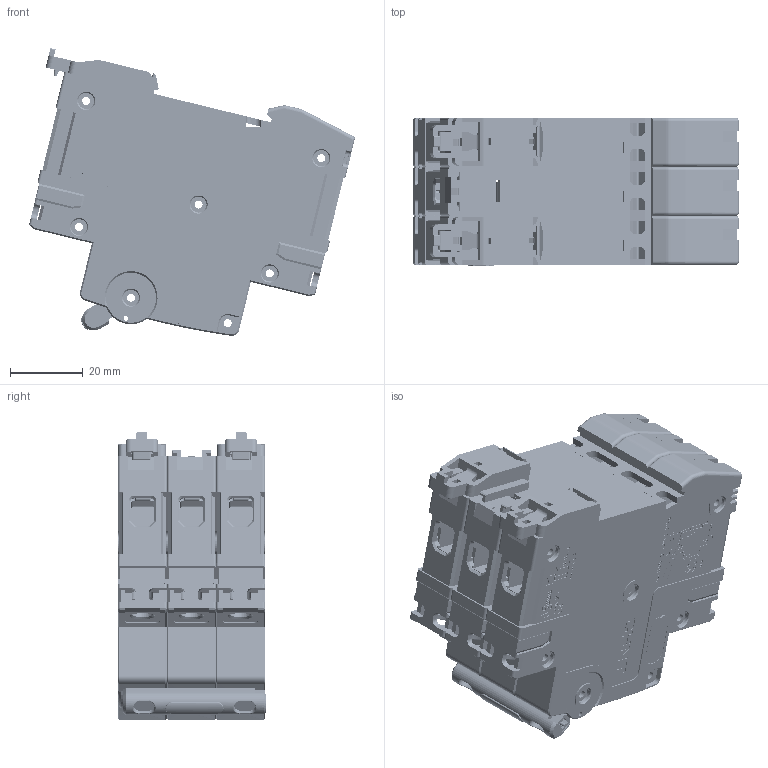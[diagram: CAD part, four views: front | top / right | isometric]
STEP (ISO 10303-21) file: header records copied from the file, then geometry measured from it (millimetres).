
FILE_DESCRIPTION((''),'2;1');
FILE_NAME('NB8-40J_3P2023070001_ASM','2023-07-19T15:49:16',('huchaow'),(''),'CREO PARAMETRIC BY PTC INC, 2020044','CREO PARAMETRIC BY PTC INC, 2020044','');
FILE_SCHEMA(('CONFIG_CONTROL_DESIGN','SHAPE_APPEARANCE_LAYERS_GROUPS'));
Products named in the file (1): NB8-40J_3P2023070001_ASM
Bounding box: 89.6 x 40.8 x 79.22 mm (x, y, z)
Surface area: 110423.1 mm2 (no closed solid volume)
Topology: 0 solids, 46 shells, 13097 faces, 36296 edges, 23955 vertices
Faces by surface type: plane 9471, cylinder 1873, extrusion 1215, cone 441, bspline 60, torus 33, sphere 4
Entity records: 571652 total; most frequent: CARTESIAN_POINT 94583, ORIENTED_EDGE 72586, DIRECTION 62423, EDGE_CURVE 36293, VECTOR 29689, LINE 28474, VERTEX_POINT 23961, FILL_AREA_STYLE_COLOUR 23212
